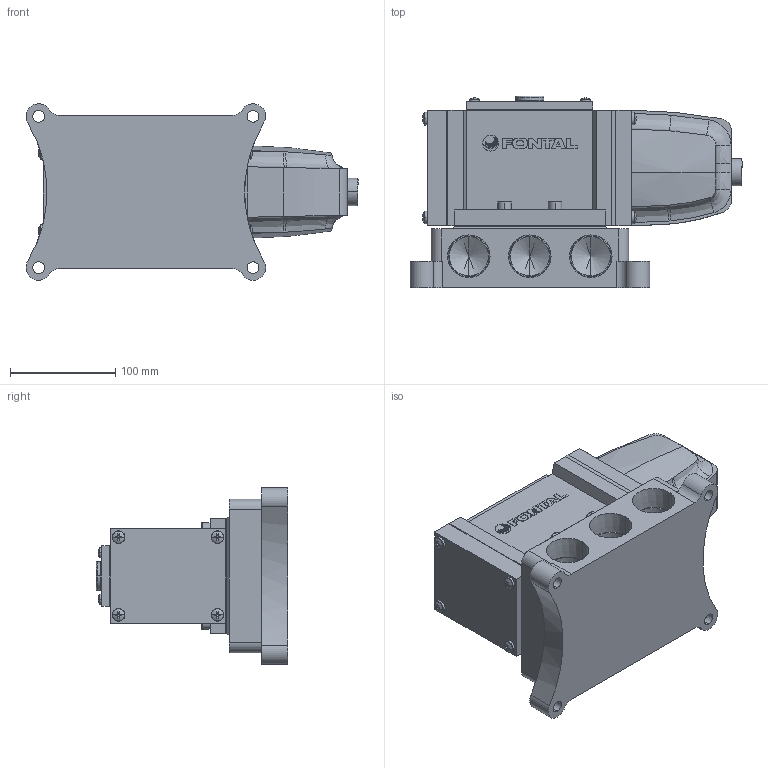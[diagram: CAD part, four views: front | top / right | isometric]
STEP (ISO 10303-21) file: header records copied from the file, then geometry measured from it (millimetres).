
FILE_DESCRIPTION (( 'STEP AP203' ), '1' );
FILE_NAME ('AS2425-10-##.STEP', '2016-03-09T05:18:21', ( 'Sam Lin' ), ( '' ), 'SwSTEP 2.0', 'SolidWorks 2013', '' );
FILE_SCHEMA (( 'CONFIG_CONTROL_DESIGN' ));
Length unit declared in the file: metre
Products named in the file (14): AS2425-1; AS2425-5; A25-MARK-2415; ISO 4762 M8 x 30; AS2425-2; AS2425-10; AS2425-3; ISO 7045 - M5 x 16; AS2325-2; AS2425-10-##; AS2325-3; ISO 7045 - M6 x 20; AS2310-4; AS2425-4
Assembly tree (26 placements, depth 2):
  AS2425-10-##
    AS2425-1
    A25-MARK-2415
    AS2425-2
    AS2425-3
    AS2325-2
    AS2325-3
    ISO 7045 - M6 x 20  x8
    AS2310-4
    AS2425-4
    AS2425-5
    ISO 4762 M8 x 30  x4
    AS2425-10
    ISO 7045 - M5 x 16  x4
Bounding box: 315.89 x 182.5 x 167.99 mm (x, y, z)
Volume: 3871375.4 mm3; surface area: 403496.2 mm2
Topology: 32 solids, 32 shells, 834 faces, 2083 edges, 1305 vertices
Faces by surface type: plane 436, cylinder 170, cone 108, bspline 104, torus 16
Entity records: 16742 total; most frequent: CARTESIAN_POINT 5179, ORIENTED_EDGE 2042, DIRECTION 1957, EDGE_CURVE 1021, AXIS2_PLACEMENT_3D 697, VERTEX_POINT 664, LINE 563, VECTOR 563
